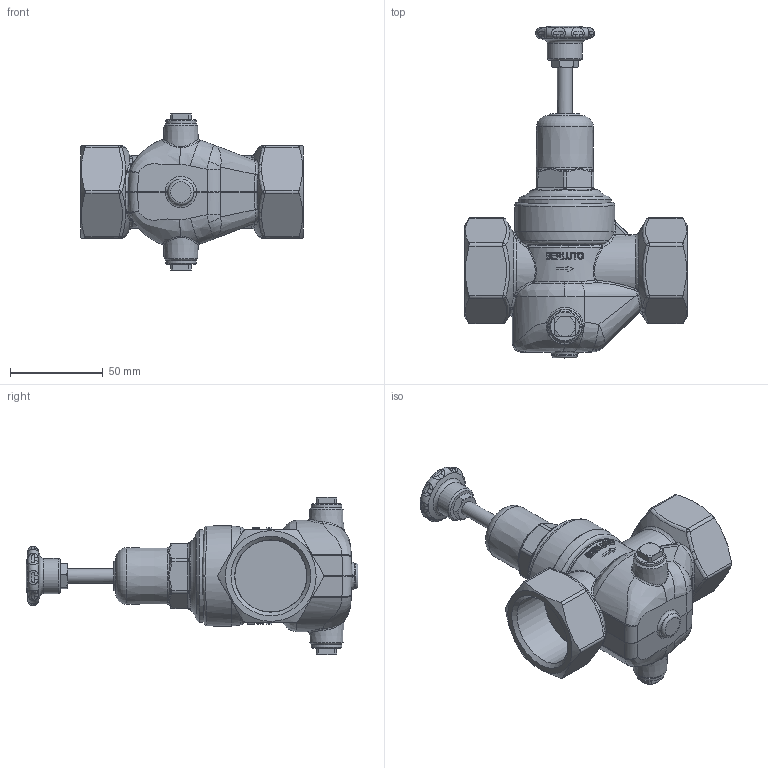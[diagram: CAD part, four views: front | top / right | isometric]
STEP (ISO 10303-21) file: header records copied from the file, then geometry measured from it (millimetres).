
FILE_DESCRIPTION(/* description */ (''),/* implementation_level */ '2;1');
FILE_NAME(/* name */ 'U:/AirCom-Produktdokumentation/Druckregler/RWI/Zeichnungen/CAD-Aircom/3D/B-RWI-10E.step',/* time_stamp */ '2022-07-01T14:23:12+02:00',/* author */ (''),/* organization */ (''),/* preprocessor_version */ 'ST-DEVELOPER v19',/* originating_system */ 'Autodesk Translation Framework v11.7.0.108',/* authorisation */ '');
FILE_SCHEMA (('AUTOMOTIVE_DESIGN { 1 0 10303 214 3 1 1 }'));
Products named in the file (1): 030805_step
Bounding box: 120 x 178.94 x 84.98 mm (x, y, z)
Volume: 329715.4 mm3; surface area: 46398.4 mm2
Topology: 1 solids, 1 shells, 752 faces, 1922 edges, 1203 vertices
Faces by surface type: bspline 323, plane 223, cylinder 117, cone 46, torus 26, sphere 17
Full cylindrical faces by diameter (mm): 3 x1, 8 x1, 14 x1, 16.5 x2, 19 x1, 38.728 x1, 38.952 x2, 50 x1, 54 x1
Entity records: 66124 total; most frequent: CARTESIAN_POINT 49062, ORIENTED_EDGE 3828, DIRECTION 2699, EDGE_CURVE 1914, VERTEX_POINT 1203, AXIS2_PLACEMENT_3D 1060, EDGE_LOOP 791, STYLED_ITEM 753
